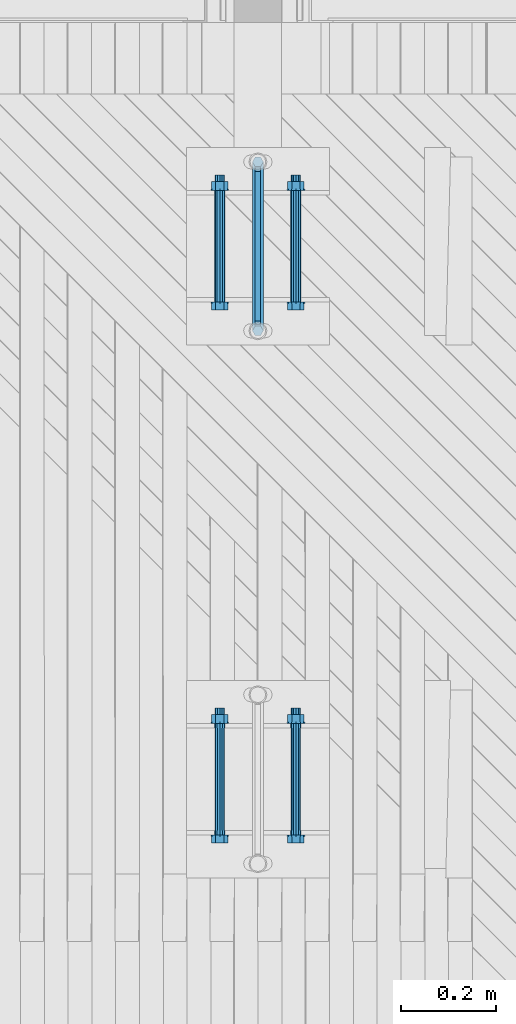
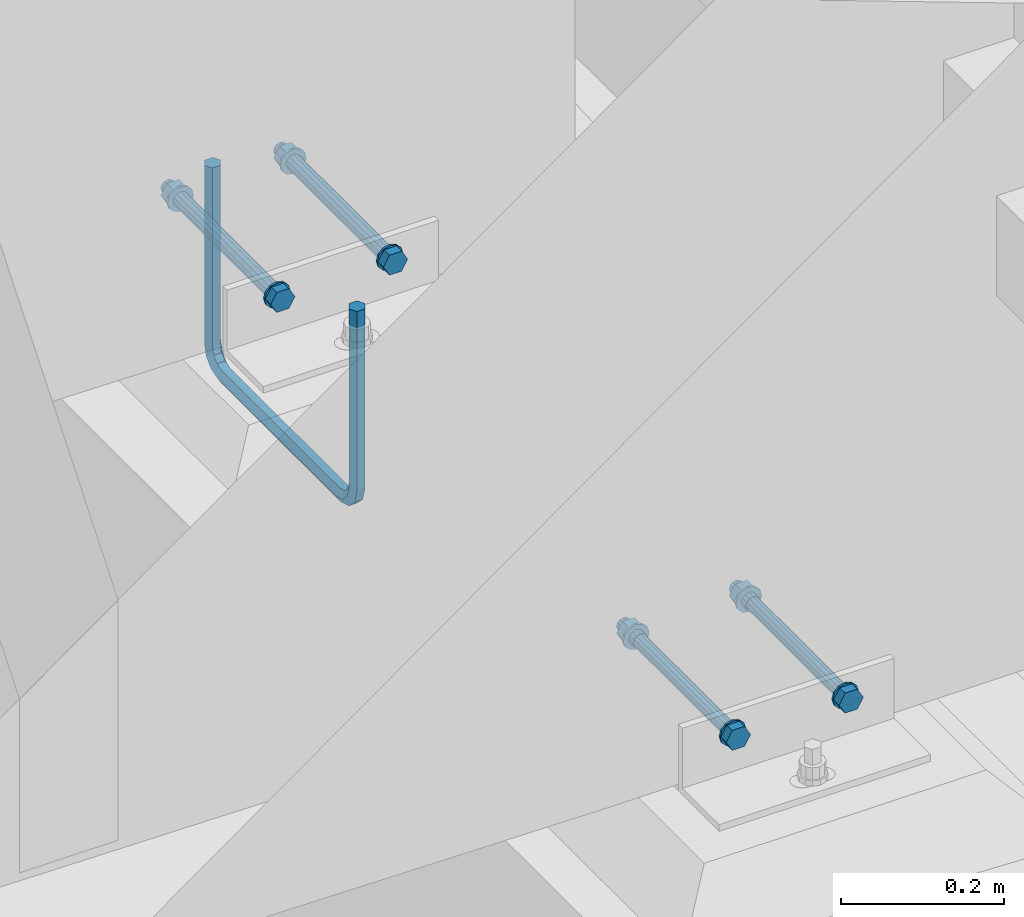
# One storey, part 4 of 65: 2 mechanical fasteners, 2 reinforcing bars.
"""IFC2X3 building model written with IfcOpenShell, lengths in millimetres."""

from ifc_helpers import new_model, si_unit, frame, origin_with_axes, place, context, subcontext, project, spatial, faceted_brep, source, transform, mapped, material, type_object, element, save


model = new_model("IFC2X3")

# Units and contexts
model_context = context("Model", 3, precision=1e-05, world=origin_with_axes())
body_context = subcontext(model_context, "Body", "Model", "MODEL_VIEW")
ifc_project = project(units=[si_unit("LENGTHUNIT", "METRE", prefix="MILLI"), si_unit("AREAUNIT", "SQUARE_METRE"), si_unit("VOLUMEUNIT", "CUBIC_METRE"), si_unit("MASSUNIT", "GRAM", prefix="KILO"), si_unit("TIMEUNIT", "SECOND"), si_unit("PLANEANGLEUNIT", "RADIAN"), si_unit("SOLIDANGLEUNIT", "STERADIAN"), si_unit("THERMODYNAMICTEMPERATUREUNIT", "DEGREE_CELSIUS"), si_unit("LUMINOUSINTENSITYUNIT", "LUMEN")], contexts=[model_context])

# Site, building, storey
site_placement = place(None, origin_with_axes())
site = spatial("IfcSite", under=ifc_project, at=site_placement, Name="Undefined", CompositionType="ELEMENT")
building_placement = place(site_placement, origin_with_axes())
building = spatial("IfcBuilding", under=site, at=building_placement, Name="Undefined", CompositionType="ELEMENT")
storey_placement = place(building_placement, origin_with_axes())
storey = spatial("IfcBuildingStorey", under=building, at=storey_placement, Name="Undefined", CompositionType="ELEMENT", Elevation=0.0)

# Reinforcing bars
ifc_material_1 = material(Name="A500HW")
shared_shape_1 = source(origin_with_axes(), body_context, "Body", "Brep", [
    faceted_brep([(9.95929214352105, -5.74999999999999, -1.31778448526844e-16), (9.95929214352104, 5.75000000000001, -1.31778448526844e-16), (-4.46864767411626e-15, 11.5, 5.31556664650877e-32), (-9.95929214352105, 5.75, 1.31778448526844e-16), (-9.95929214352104, -5.75, 1.31778448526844e-16), (0.0, -11.5, 0.0), (-9.95929214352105, -5.75, -268.5), (-3.5527136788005e-15, -11.5, -268.5), (-9.95929214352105, 5.75, -268.5), (-8.02136135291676e-15, 11.5, -268.5), (9.95929214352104, 5.75000000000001, -268.5), (9.95929214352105, -5.74999999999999, -268.5), (-4.40480021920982, -5.75, -289.229646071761), (4.22019978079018, -11.5, -284.25), (-4.40480021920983, 5.75, -289.229646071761), (4.22019978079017, 11.5, -284.25), (12.8451997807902, 5.75000000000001, -279.27035392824), (12.8451997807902, -5.74999999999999, -279.27035392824), (10.7703539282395, -5.75, -304.40480021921), (15.75, -11.5, -295.77980021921), (10.7703539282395, 5.75, -304.40480021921), (15.75, 11.5, -295.77980021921), (20.7296460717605, 5.75000000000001, -287.15480021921), (20.7296460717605, -5.74999999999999, -287.15480021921), (31.5, -5.75, -309.959292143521), (31.5, -11.5, -300.0), (31.5, 5.75, -309.959292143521), (31.5, 11.5, -300.0), (31.5, 5.75000000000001, -290.040707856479), (31.5, -5.74999999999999, -290.040707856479), (323.5, -5.75, -309.959292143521), (323.5, -11.5, -300.0), (323.5, 5.75, -309.959292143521), (323.5, 11.5, -300.0), (323.5, 5.75000000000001, -290.040707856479), (323.5, -5.74999999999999, -290.040707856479), (344.229646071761, -5.75, -304.40480021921), (339.25, -11.5, -295.77980021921), (344.229646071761, 5.75, -304.40480021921), (339.25, 11.5, -295.77980021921), (334.270353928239, 5.75000000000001, -287.15480021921), (334.270353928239, -5.74999999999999, -287.15480021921), (359.40480021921, -5.75, -289.229646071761), (350.77980021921, -11.5, -284.25), (359.40480021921, 5.75, -289.229646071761), (350.77980021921, 11.5, -284.25), (342.15480021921, 5.75000000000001, -279.27035392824), (342.15480021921, -5.74999999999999, -279.27035392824), (364.959292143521, -5.75, -268.5), (355.0, -11.5, -268.5), (364.959292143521, 5.75, -268.5), (355.0, 11.5, -268.5), (345.040707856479, 5.75000000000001, -268.5), (345.040707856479, -5.74999999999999, -268.5), (364.959292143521, -5.75, 0.0), (355.0, -11.5, 0.0), (364.959292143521, 5.75, 0.0), (355.0, 11.5, 0.0), (345.040707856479, 5.75000000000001, 0.0), (345.040707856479, -5.74999999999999, 0.0)], [[[0, 1, 2, 3, 4, 5]], [[5, 4, 6, 7]], [[4, 3, 8, 6]], [[3, 2, 9, 8]], [[2, 1, 10, 9]], [[1, 0, 11, 10]], [[0, 5, 7, 11]], [[7, 6, 12, 13]], [[6, 8, 14, 12]], [[8, 9, 15, 14]], [[9, 10, 16, 15]], [[10, 11, 17, 16]], [[11, 7, 13, 17]], [[13, 12, 18, 19]], [[12, 14, 20, 18]], [[14, 15, 21, 20]], [[15, 16, 22, 21]], [[16, 17, 23, 22]], [[17, 13, 19, 23]], [[19, 18, 24, 25]], [[18, 20, 26, 24]], [[20, 21, 27, 26]], [[21, 22, 28, 27]], [[22, 23, 29, 28]], [[23, 19, 25, 29]], [[25, 24, 30, 31]], [[24, 26, 32, 30]], [[26, 27, 33, 32]], [[27, 28, 34, 33]], [[28, 29, 35, 34]], [[29, 25, 31, 35]], [[31, 30, 36, 37]], [[30, 32, 38, 36]], [[32, 33, 39, 38]], [[33, 34, 40, 39]], [[34, 35, 41, 40]], [[35, 31, 37, 41]], [[37, 36, 42, 43]], [[36, 38, 44, 42]], [[38, 39, 45, 44]], [[39, 40, 46, 45]], [[40, 41, 47, 46]], [[41, 37, 43, 47]], [[43, 42, 48, 49]], [[42, 44, 50, 48]], [[44, 45, 51, 50]], [[45, 46, 52, 51]], [[46, 47, 53, 52]], [[47, 43, 49, 53]], [[49, 48, 54, 55]], [[48, 50, 56, 54]], [[50, 51, 57, 56]], [[51, 52, 58, 57]], [[52, 53, 59, 58]], [[53, 49, 55, 59]], [[55, 54, 56, 57, 58, 59]]]),
])
for number, where, z_axis, x_axis, name in (
    (1, (16000.0, 24222.5000000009, 1615.32999999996), (0.0, 0.0, 1.0), (0.0, -1.0, 0.0), "REBAR"),
    (2, (16000.0, 24222.5000000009, 1615.32999999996), (0.0, 0.0, 1.0), (0.0, -1.0, 0.0), "REBAR"),
):
    element("IfcReinforcingBar", number, at=place(storey_placement, frame(where, z_axis=z_axis, x_axis=x_axis)), inside=storey, material=ifc_material_1, Name=name, BarRole="NOTDEFINED", CrossSectionArea=0.0, NominalDiameter=23.0, context=body_context, shape_type="MappedRepresentation", body=[
        mapped(shared_shape_1, transform((0.0, 0.0, 420.0))),
    ])

# Mechanical fasteners
ifc_material_2 = material(Name="Undefined")
mechanical_fastener_type = type_object("IfcMechanicalFastenerType", Name="Bolt assembly")
shared_shape_2 = source(origin_with_axes(), body_context, "Body", "Brep", [
    faceted_brep([(17.3205080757, -238.7, 0.0), (8.66025403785, -238.7, 15.0000000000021), (-8.66025403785, -238.7, 15.0000000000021), (-17.3205080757, -238.7, 0.0), (-8.66025403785, -238.7, -15.0000000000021), (8.66025403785, -238.7, -15.0000000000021), (8.66025403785, -225.5, -15.0000000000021), (-8.66025403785, -225.5, -15.0000000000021), (-17.3205080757, -225.5, 0.0), (-8.66025403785, -225.5, 15.0000000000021), (8.66025403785, -225.5, 15.0000000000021), (17.3205080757, -225.5, 0.0), (10.0, -225.5, 0.0), (8.66025403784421, -225.5, 5.0000000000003), (4.9999999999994, -225.5, 8.66025403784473), (-1.03633598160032e-12, -225.5, 10.0), (-5.00000000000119, -225.5, 8.6602540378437), (-8.66025403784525, -225.5, 4.99999999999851), (-10.0, -225.5, -2.07267196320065e-12), (-8.66025403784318, -225.5, -5.00000000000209), (-4.99999999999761, -225.5, -8.66025403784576), (3.09790571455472e-12, -225.5, -10.0), (5.00000000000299, -225.5, -8.66025403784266), (8.66025403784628, -225.5, -4.99999999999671), (8.66025403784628, 44.5, -4.99999999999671), (5.00000000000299, 44.5, -8.66025403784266), (3.09790571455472e-12, 44.5, -10.0), (-4.99999999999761, 44.5, -8.66025403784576), (-8.66025403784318, 44.5, -5.00000000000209), (-10.0, 44.5, -2.07267196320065e-12), (-8.66025403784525, 44.5, 4.99999999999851), (-5.00000000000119, 44.5, 8.6602540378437), (-1.03633598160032e-12, 44.5, 10.0), (4.9999999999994, 44.5, 8.66025403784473), (8.66025403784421, 44.5, 5.0000000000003), (10.0, 44.5, 0.0), (18.5, -225.5, 0.0), (16.0214699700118, -225.5, 9.25000000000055), (9.2499999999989, -225.5, 16.0214699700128), (-1.9172215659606e-12, -225.5, 18.5), (-9.25000000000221, -225.5, 16.0214699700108), (-16.0214699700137, -225.5, 9.24999999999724), (-18.5, -225.5, -3.83444313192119e-12), (-16.0214699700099, -225.5, -9.25000000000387), (-9.24999999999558, -225.5, -16.0214699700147), (5.73112557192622e-12, -225.5, -18.5), (9.25000000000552, -225.5, -16.0214699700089), (16.0214699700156, -225.5, -9.24999999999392), (16.0214699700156, -222.5, -9.24999999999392), (9.25000000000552, -222.5, -16.0214699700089), (5.73112557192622e-12, -222.5, -18.5), (-9.24999999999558, -222.5, -16.0214699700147), (-16.0214699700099, -222.5, -9.25000000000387), (-18.5, -222.5, -3.83444313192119e-12), (-16.0214699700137, -222.5, 9.24999999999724), (-9.25000000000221, -222.5, 16.0214699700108), (-1.9172215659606e-12, -222.5, 18.5), (9.2499999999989, -222.5, 16.0214699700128), (16.0214699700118, -222.5, 9.25000000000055), (18.5, -222.5, 0.0), (18.5, 12.5, 0.0), (16.0214699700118, 12.5, 9.25000000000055), (9.2499999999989, 12.5, 16.0214699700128), (-1.9172215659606e-12, 12.5, 18.5), (-9.25000000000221, 12.5, 16.0214699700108), (-16.0214699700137, 12.5, 9.24999999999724), (-18.5, 12.5, -3.83444313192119e-12), (-16.0214699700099, 12.5, -9.25000000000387), (-9.24999999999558, 12.5, -16.0214699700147), (5.73112557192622e-12, 12.5, -18.5), (9.25000000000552, 12.5, -16.0214699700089), (16.0214699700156, 12.5, -9.24999999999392), (16.0214699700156, 15.5, -9.24999999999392), (9.25000000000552, 15.5, -16.0214699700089), (5.73112557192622e-12, 15.5, -18.5), (-9.24999999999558, 15.5, -16.0214699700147), (-16.0214699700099, 15.5, -9.25000000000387), (-18.5, 15.5, -3.83444313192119e-12), (-16.0214699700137, 15.5, 9.24999999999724), (-9.25000000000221, 15.5, 16.0214699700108), (-1.9172215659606e-12, 15.5, 18.5), (9.2499999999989, 15.5, 16.0214699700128), (16.0214699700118, 15.5, 9.25000000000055), (18.5, 15.5, 0.0), (17.3205080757, 15.5, 0.0), (8.66025403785, 15.5, 15.0000000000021), (-8.66025403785, 15.5, 15.0000000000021), (-17.3205080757, 15.5, 0.0), (-8.66025403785, 15.5, -15.0000000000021), (8.66025403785, 15.5, -15.0000000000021), (8.66025403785, 31.5, -15.0000000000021), (-8.66025403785, 31.5, -15.0000000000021), (-17.3205080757, 31.5, 0.0), (-8.66025403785, 31.5, 15.0000000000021), (8.66025403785, 31.5, 15.0000000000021), (17.3205080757, 31.5, 0.0)], [[[0, 1, 2, 3, 4, 5]], [[6, 7, 8, 9, 10, 11]], [[0, 11, 10, 1]], [[1, 10, 9, 2]], [[2, 9, 8, 3]], [[3, 8, 7, 4]], [[4, 7, 6, 5]], [[5, 6, 11, 0]], [[12, 13, 14, 15, 16, 17, 18, 19, 20, 21, 22, 23]], [[24, 25, 26, 27, 28, 29, 30, 31, 32, 33, 34, 35]], [[12, 35, 34, 13]], [[13, 34, 33, 14]], [[14, 33, 32, 15]], [[15, 32, 31, 16]], [[16, 31, 30, 17]], [[17, 30, 29, 18]], [[18, 29, 28, 19]], [[19, 28, 27, 20]], [[20, 27, 26, 21]], [[21, 26, 25, 22]], [[22, 25, 24, 23]], [[23, 24, 35, 12]], [[36, 37, 38, 39, 40, 41, 42, 43, 44, 45, 46, 47]], [[48, 49, 50, 51, 52, 53, 54, 55, 56, 57, 58, 59]], [[36, 59, 58, 37]], [[37, 58, 57, 38]], [[38, 57, 56, 39]], [[39, 56, 55, 40]], [[40, 55, 54, 41]], [[41, 54, 53, 42]], [[42, 53, 52, 43]], [[43, 52, 51, 44]], [[44, 51, 50, 45]], [[45, 50, 49, 46]], [[46, 49, 48, 47]], [[47, 48, 59, 36]], [[60, 61, 62, 63, 64, 65, 66, 67, 68, 69, 70, 71]], [[72, 73, 74, 75, 76, 77, 78, 79, 80, 81, 82, 83]], [[60, 83, 82, 61]], [[61, 82, 81, 62]], [[62, 81, 80, 63]], [[63, 80, 79, 64]], [[64, 79, 78, 65]], [[65, 78, 77, 66]], [[66, 77, 76, 67]], [[67, 76, 75, 68]], [[68, 75, 74, 69]], [[69, 74, 73, 70]], [[70, 73, 72, 71]], [[71, 72, 83, 60]], [[84, 85, 86, 87, 88, 89]], [[90, 91, 92, 93, 94, 95]], [[84, 95, 94, 85]], [[85, 94, 93, 86]], [[86, 93, 92, 87]], [[87, 92, 91, 88]], [[88, 91, 90, 89]], [[89, 90, 95, 84]]]),
    faceted_brep([(11.0, -222.4, 0.0), (9.52627944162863, -222.4, 5.50000000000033), (5.49999999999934, -222.4, 9.5262794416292), (-1.13996957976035e-12, -222.4, 11.0), (-5.50000000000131, -222.4, 9.52627944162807), (-9.52627944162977, -222.4, 5.49999999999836), (-11.0, -222.4, -2.27993915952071e-12), (-9.5262794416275, -222.4, -5.5000000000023), (-5.49999999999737, -222.4, -9.52627944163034), (3.40769628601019e-12, -222.4, -11.0), (5.50000000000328, -222.4, -9.52627944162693), (9.52627944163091, -222.4, -5.49999999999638), (9.52627944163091, -212.4, -5.49999999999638), (5.50000000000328, -212.4, -9.52627944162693), (3.40769628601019e-12, -212.4, -11.0), (-5.49999999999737, -212.4, -9.52627944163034), (-9.5262794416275, -212.4, -5.5000000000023), (-11.0, -212.4, -2.27993915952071e-12), (-9.52627944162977, -212.4, 5.49999999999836), (-5.50000000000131, -212.4, 9.52627944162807), (-1.13996957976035e-12, -212.4, 11.0), (5.49999999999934, -212.4, 9.5262794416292), (9.52627944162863, -212.4, 5.50000000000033), (11.0, -212.4, 0.0), (11.0, 2.4, 0.0), (9.52627944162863, 2.4, 5.50000000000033), (5.49999999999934, 2.4, 9.5262794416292), (-1.13996957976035e-12, 2.4, 11.0), (-5.50000000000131, 2.4, 9.52627944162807), (-9.52627944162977, 2.4, 5.49999999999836), (-11.0, 2.4, -2.27993915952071e-12), (-9.5262794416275, 2.4, -5.5000000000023), (-5.49999999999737, 2.4, -9.52627944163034), (3.40769628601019e-12, 2.4, -11.0), (5.50000000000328, 2.4, -9.52627944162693), (9.52627944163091, 2.4, -5.49999999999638), (9.52627944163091, 12.5, -5.49999999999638), (5.50000000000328, 12.5, -9.52627944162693), (3.40769628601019e-12, 12.5, -11.0), (-5.49999999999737, 12.5, -9.52627944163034), (-9.5262794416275, 12.5, -5.5000000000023), (-11.0, 12.5, -2.27993915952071e-12), (-9.52627944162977, 12.5, 5.49999999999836), (-5.50000000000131, 12.5, 9.52627944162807), (-1.13996957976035e-12, 12.5, 11.0), (5.49999999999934, 12.5, 9.5262794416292), (9.52627944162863, 12.5, 5.50000000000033), (11.0, 12.5, 0.0)], [[[0, 1, 2, 3, 4, 5, 6, 7, 8, 9, 10, 11]], [[12, 13, 14, 15, 16, 17, 18, 19, 20, 21, 22, 23]], [[0, 23, 22, 1]], [[1, 22, 21, 2]], [[2, 21, 20, 3]], [[3, 20, 19, 4]], [[4, 19, 18, 5]], [[5, 18, 17, 6]], [[6, 17, 16, 7]], [[7, 16, 15, 8]], [[8, 15, 14, 9]], [[9, 14, 13, 10]], [[10, 13, 12, 11]], [[11, 12, 23, 0]], [[24, 25, 26, 27, 28, 29, 30, 31, 32, 33, 34, 35]], [[36, 37, 38, 39, 40, 41, 42, 43, 44, 45, 46, 47]], [[24, 47, 46, 25]], [[25, 46, 45, 26]], [[26, 45, 44, 27]], [[27, 44, 43, 28]], [[28, 43, 42, 29]], [[29, 42, 41, 30]], [[30, 41, 40, 31]], [[31, 40, 39, 32]], [[32, 39, 38, 33]], [[33, 38, 37, 34]], [[34, 37, 36, 35]], [[35, 36, 47, 24]]]),
])
mechanical_fastener_1_placement = place(storey_placement, frame((16080.0, 23030.0000000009, 2067.33), z_axis=(0.0, 0.0, -1.0), x_axis=(-1.0, 0.0, 0.0)))
element("IfcMechanicalFastener", 3, at=mechanical_fastener_1_placement, inside=storey, type_object=mechanical_fastener_type, material=ifc_material_2, Name="Bolt assembly", NominalDiameter=20.0, NominalLength=270.0, context=body_context, shape_type="MappedRepresentation", body=[
    mapped(shared_shape_2, transform((0.0, 0.0, 0.0))),
    mapped(shared_shape_2, transform((160.0, 0.0, 0.0))),
])
shared_shape_3 = source(origin_with_axes(), body_context, "Body", "Brep", [
    faceted_brep([(17.3205080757, -238.7, 0.0), (8.66025403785, -238.7, 15.0000000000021), (-8.66025403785, -238.7, 15.0000000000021), (-17.3205080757, -238.7, 0.0), (-8.66025403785, -238.7, -15.0000000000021), (8.66025403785, -238.7, -15.0000000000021), (8.66025403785, -225.5, -15.0000000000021), (-8.66025403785, -225.5, -15.0000000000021), (-17.3205080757, -225.5, 0.0), (-8.66025403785, -225.5, 15.0000000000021), (8.66025403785, -225.5, 15.0000000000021), (17.3205080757, -225.5, 0.0), (10.0, -225.5, 0.0), (8.66025403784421, -225.5, 5.0000000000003), (4.9999999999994, -225.5, 8.66025403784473), (-1.03633598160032e-12, -225.5, 10.0), (-5.00000000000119, -225.5, 8.6602540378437), (-8.66025403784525, -225.5, 4.99999999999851), (-10.0, -225.5, -2.07267196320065e-12), (-8.66025403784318, -225.5, -5.00000000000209), (-4.99999999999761, -225.5, -8.66025403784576), (3.09790571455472e-12, -225.5, -10.0), (5.00000000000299, -225.5, -8.66025403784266), (8.66025403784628, -225.5, -4.99999999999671), (8.66025403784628, 44.5, -4.99999999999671), (5.00000000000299, 44.5, -8.66025403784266), (3.09790571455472e-12, 44.5, -10.0), (-4.99999999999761, 44.5, -8.66025403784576), (-8.66025403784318, 44.5, -5.00000000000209), (-10.0, 44.5, -2.07267196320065e-12), (-8.66025403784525, 44.5, 4.99999999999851), (-5.00000000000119, 44.5, 8.6602540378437), (-1.03633598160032e-12, 44.5, 10.0), (4.9999999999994, 44.5, 8.66025403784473), (8.66025403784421, 44.5, 5.0000000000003), (10.0, 44.5, 0.0), (18.5, -225.5, 0.0), (16.0214699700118, -225.5, 9.25000000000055), (9.2499999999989, -225.5, 16.0214699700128), (-1.9172215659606e-12, -225.5, 18.5), (-9.25000000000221, -225.5, 16.0214699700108), (-16.0214699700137, -225.5, 9.24999999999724), (-18.5, -225.5, -3.83444313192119e-12), (-16.0214699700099, -225.5, -9.25000000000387), (-9.24999999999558, -225.5, -16.0214699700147), (5.73112557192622e-12, -225.5, -18.5), (9.25000000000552, -225.5, -16.0214699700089), (16.0214699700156, -225.5, -9.24999999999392), (16.0214699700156, -222.5, -9.24999999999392), (9.25000000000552, -222.5, -16.0214699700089), (5.73112557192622e-12, -222.5, -18.5), (-9.24999999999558, -222.5, -16.0214699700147), (-16.0214699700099, -222.5, -9.25000000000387), (-18.5, -222.5, -3.83444313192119e-12), (-16.0214699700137, -222.5, 9.24999999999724), (-9.25000000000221, -222.5, 16.0214699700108), (-1.9172215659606e-12, -222.5, 18.5), (9.2499999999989, -222.5, 16.0214699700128), (16.0214699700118, -222.5, 9.25000000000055), (18.5, -222.5, 0.0), (18.5, 12.5, 0.0), (16.0214699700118, 12.5, 9.25000000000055), (9.2499999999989, 12.5, 16.0214699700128), (-1.9172215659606e-12, 12.5, 18.5), (-9.25000000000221, 12.5, 16.0214699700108), (-16.0214699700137, 12.5, 9.24999999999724), (-18.5, 12.5, -3.83444313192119e-12), (-16.0214699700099, 12.5, -9.25000000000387), (-9.24999999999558, 12.5, -16.0214699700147), (5.73112557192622e-12, 12.5, -18.5), (9.25000000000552, 12.5, -16.0214699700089), (16.0214699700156, 12.5, -9.24999999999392), (16.0214699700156, 15.5, -9.24999999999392), (9.25000000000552, 15.5, -16.0214699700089), (5.73112557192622e-12, 15.5, -18.5), (-9.24999999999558, 15.5, -16.0214699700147), (-16.0214699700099, 15.5, -9.25000000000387), (-18.5, 15.5, -3.83444313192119e-12), (-16.0214699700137, 15.5, 9.24999999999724), (-9.25000000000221, 15.5, 16.0214699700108), (-1.9172215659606e-12, 15.5, 18.5), (9.2499999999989, 15.5, 16.0214699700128), (16.0214699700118, 15.5, 9.25000000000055), (18.5, 15.5, 0.0), (17.3205080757, 15.5, 0.0), (8.66025403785, 15.5, 15.0000000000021), (-8.66025403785, 15.5, 15.0000000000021), (-17.3205080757, 15.5, 0.0), (-8.66025403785, 15.5, -15.0000000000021), (8.66025403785, 15.5, -15.0000000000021), (8.66025403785, 31.5, -15.0000000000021), (-8.66025403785, 31.5, -15.0000000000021), (-17.3205080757, 31.5, 0.0), (-8.66025403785, 31.5, 15.0000000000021), (8.66025403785, 31.5, 15.0000000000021), (17.3205080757, 31.5, 0.0)], [[[0, 1, 2, 3, 4, 5]], [[6, 7, 8, 9, 10, 11]], [[0, 11, 10, 1]], [[1, 10, 9, 2]], [[2, 9, 8, 3]], [[3, 8, 7, 4]], [[4, 7, 6, 5]], [[5, 6, 11, 0]], [[12, 13, 14, 15, 16, 17, 18, 19, 20, 21, 22, 23]], [[24, 25, 26, 27, 28, 29, 30, 31, 32, 33, 34, 35]], [[12, 35, 34, 13]], [[13, 34, 33, 14]], [[14, 33, 32, 15]], [[15, 32, 31, 16]], [[16, 31, 30, 17]], [[17, 30, 29, 18]], [[18, 29, 28, 19]], [[19, 28, 27, 20]], [[20, 27, 26, 21]], [[21, 26, 25, 22]], [[22, 25, 24, 23]], [[23, 24, 35, 12]], [[36, 37, 38, 39, 40, 41, 42, 43, 44, 45, 46, 47]], [[48, 49, 50, 51, 52, 53, 54, 55, 56, 57, 58, 59]], [[36, 59, 58, 37]], [[37, 58, 57, 38]], [[38, 57, 56, 39]], [[39, 56, 55, 40]], [[40, 55, 54, 41]], [[41, 54, 53, 42]], [[42, 53, 52, 43]], [[43, 52, 51, 44]], [[44, 51, 50, 45]], [[45, 50, 49, 46]], [[46, 49, 48, 47]], [[47, 48, 59, 36]], [[60, 61, 62, 63, 64, 65, 66, 67, 68, 69, 70, 71]], [[72, 73, 74, 75, 76, 77, 78, 79, 80, 81, 82, 83]], [[60, 83, 82, 61]], [[61, 82, 81, 62]], [[62, 81, 80, 63]], [[63, 80, 79, 64]], [[64, 79, 78, 65]], [[65, 78, 77, 66]], [[66, 77, 76, 67]], [[67, 76, 75, 68]], [[68, 75, 74, 69]], [[69, 74, 73, 70]], [[70, 73, 72, 71]], [[71, 72, 83, 60]], [[84, 85, 86, 87, 88, 89]], [[90, 91, 92, 93, 94, 95]], [[84, 95, 94, 85]], [[85, 94, 93, 86]], [[86, 93, 92, 87]], [[87, 92, 91, 88]], [[88, 91, 90, 89]], [[89, 90, 95, 84]]]),
    faceted_brep([(11.0, 2.4, 0.0), (9.52627944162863, 2.4, 5.50000000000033), (5.49999999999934, 2.4, 9.5262794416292), (-1.13996957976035e-12, 2.4, 11.0), (-5.50000000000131, 2.4, 9.52627944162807), (-9.52627944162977, 2.4, 5.49999999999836), (-11.0, 2.4, -2.27993915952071e-12), (-9.5262794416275, 2.4, -5.5000000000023), (-5.49999999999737, 2.4, -9.52627944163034), (3.40769628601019e-12, 2.4, -11.0), (5.50000000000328, 2.4, -9.52627944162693), (9.52627944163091, 2.4, -5.49999999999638), (9.52627944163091, 12.5, -5.49999999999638), (5.50000000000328, 12.5, -9.52627944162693), (3.40769628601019e-12, 12.5, -11.0), (-5.49999999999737, 12.5, -9.52627944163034), (-9.5262794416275, 12.5, -5.5000000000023), (-11.0, 12.5, -2.27993915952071e-12), (-9.52627944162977, 12.5, 5.49999999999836), (-5.50000000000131, 12.5, 9.52627944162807), (-1.13996957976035e-12, 12.5, 11.0), (5.49999999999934, 12.5, 9.5262794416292), (9.52627944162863, 12.5, 5.50000000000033), (11.0, 12.5, 0.0), (11.0, -212.500000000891, 0.0), (9.52627944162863, -212.500000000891, 5.50000000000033), (5.49999999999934, -212.500000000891, 9.5262794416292), (-1.13996957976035e-12, -212.500000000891, 11.0), (-5.50000000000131, -212.500000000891, 9.52627944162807), (-9.52627944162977, -212.500000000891, 5.49999999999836), (-11.0, -212.500000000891, -2.27993915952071e-12), (-9.5262794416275, -212.500000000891, -5.5000000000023), (-5.49999999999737, -212.500000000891, -9.52627944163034), (3.40769628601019e-12, -212.500000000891, -11.0), (5.50000000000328, -212.500000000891, -9.52627944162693), (9.52627944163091, -212.500000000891, -5.49999999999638), (9.52627944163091, 2.4999999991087, -5.49999999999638), (5.50000000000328, 2.4999999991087, -9.52627944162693), (3.40769628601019e-12, 2.4999999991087, -11.0), (-5.49999999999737, 2.4999999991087, -9.52627944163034), (-9.5262794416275, 2.4999999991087, -5.5000000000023), (-11.0, 2.4999999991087, -2.27993915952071e-12), (-9.52627944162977, 2.4999999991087, 5.49999999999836), (-5.50000000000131, 2.4999999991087, 9.52627944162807), (-1.13996957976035e-12, 2.4999999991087, 11.0), (5.49999999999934, 2.4999999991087, 9.5262794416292), (9.52627944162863, 2.4999999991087, 5.50000000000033), (11.0, 2.4999999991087, 0.0), (11.0, -222.4, 0.0), (9.52627944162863, -222.4, 5.50000000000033), (5.49999999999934, -222.4, 9.5262794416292), (-1.13996957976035e-12, -222.4, 11.0), (-5.50000000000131, -222.4, 9.52627944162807), (-9.52627944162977, -222.4, 5.49999999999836), (-11.0, -222.4, -2.27993915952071e-12), (-9.5262794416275, -222.4, -5.5000000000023), (-5.49999999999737, -222.4, -9.52627944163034), (3.40769628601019e-12, -222.4, -11.0), (5.50000000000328, -222.4, -9.52627944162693), (9.52627944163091, -222.4, -5.49999999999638), (9.52627944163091, -212.4, -5.49999999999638), (5.50000000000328, -212.4, -9.52627944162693), (3.40769628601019e-12, -212.4, -11.0), (-5.49999999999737, -212.4, -9.52627944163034), (-9.5262794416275, -212.4, -5.5000000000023), (-11.0, -212.4, -2.27993915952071e-12), (-9.52627944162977, -212.4, 5.49999999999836), (-5.50000000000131, -212.4, 9.52627944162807), (-1.13996957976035e-12, -212.4, 11.0), (5.49999999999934, -212.4, 9.5262794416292), (9.52627944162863, -212.4, 5.50000000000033), (11.0, -212.4, 0.0)], [[[0, 1, 2, 3, 4, 5, 6, 7, 8, 9, 10, 11]], [[12, 13, 14, 15, 16, 17, 18, 19, 20, 21, 22, 23]], [[0, 23, 22, 1]], [[1, 22, 21, 2]], [[2, 21, 20, 3]], [[3, 20, 19, 4]], [[4, 19, 18, 5]], [[5, 18, 17, 6]], [[6, 17, 16, 7]], [[7, 16, 15, 8]], [[8, 15, 14, 9]], [[9, 14, 13, 10]], [[10, 13, 12, 11]], [[11, 12, 23, 0]], [[24, 25, 26, 27, 28, 29, 30, 31, 32, 33, 34, 35]], [[36, 37, 38, 39, 40, 41, 42, 43, 44, 45, 46, 47]], [[24, 47, 46, 25]], [[25, 46, 45, 26]], [[26, 45, 44, 27]], [[27, 44, 43, 28]], [[28, 43, 42, 29]], [[29, 42, 41, 30]], [[30, 41, 40, 31]], [[31, 40, 39, 32]], [[32, 39, 38, 33]], [[33, 38, 37, 34]], [[34, 37, 36, 35]], [[35, 36, 47, 24]], [[48, 49, 50, 51, 52, 53, 54, 55, 56, 57, 58, 59]], [[60, 61, 62, 63, 64, 65, 66, 67, 68, 69, 70, 71]], [[48, 71, 70, 49]], [[49, 70, 69, 50]], [[50, 69, 68, 51]], [[51, 68, 67, 52]], [[52, 67, 66, 53]], [[53, 66, 65, 54]], [[54, 65, 64, 55]], [[55, 64, 63, 56]], [[56, 63, 62, 57]], [[57, 62, 61, 58]], [[58, 61, 60, 59]], [[59, 60, 71, 48]]]),
])
mechanical_fastener_2_placement = place(storey_placement, frame((16080.0, 24150.0000000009, 2045.33), z_axis=(0.0, 0.0, -1.0), x_axis=(-1.0, 0.0, 0.0)))
element("IfcMechanicalFastener", 4, at=mechanical_fastener_2_placement, inside=storey, type_object=mechanical_fastener_type, material=ifc_material_2, Name="Bolt assembly", NominalDiameter=20.0, NominalLength=270.0, context=body_context, shape_type="MappedRepresentation", body=[
    mapped(shared_shape_3, transform((0.0, 0.0, 0.0))),
    mapped(shared_shape_3, transform((160.0, 0.0, 0.0))),
])

save(model, "model.ifc")
